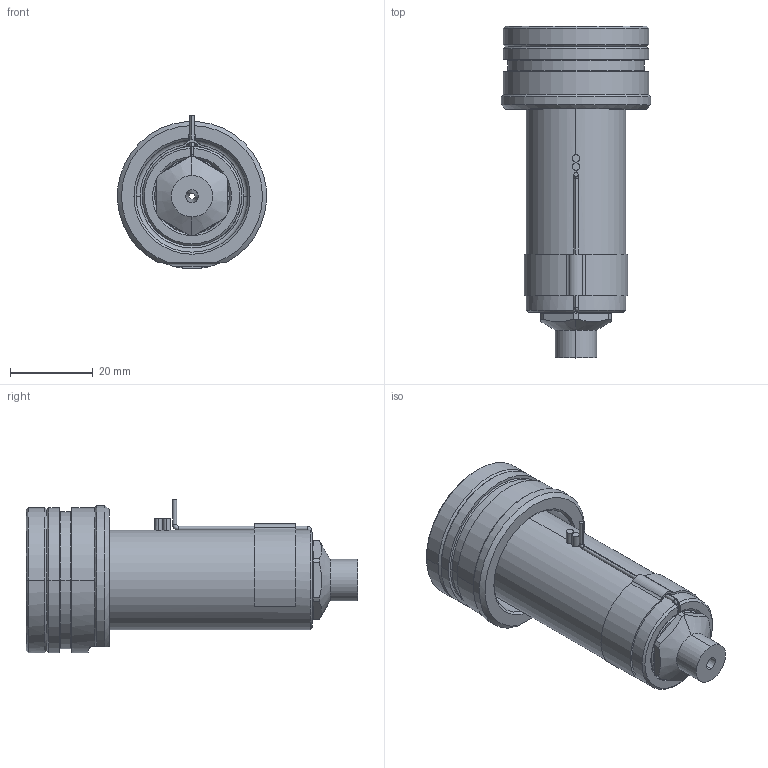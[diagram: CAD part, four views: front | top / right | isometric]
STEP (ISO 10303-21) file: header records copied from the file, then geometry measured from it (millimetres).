
FILE_DESCRIPTION((''),'2;1');
FILE_NAME('EO06_VG-ST_STD_060_SW','2024-02-19T12:37:01',('sundharh'),(''),'CREO PARAMETRIC BY PTC INC, 2023154','CREO PARAMETRIC BY PTC INC, 2023154','');
FILE_SCHEMA(('CONFIG_CONTROL_DESIGN'));
Length unit declared in the file: millimetre
Products named in the file (1): EO06_VG-ST_STD_060_SW
Bounding box: 35.93 x 80 x 37 mm (x, y, z)
Volume: 39032.8 mm3; surface area: 12467.8 mm2
Topology: 2 solids, 2 shells, 176 faces, 448 edges, 273 vertices
Faces by surface type: cylinder 68, plane 41, cone 34, torus 21, bspline 10, sphere 2
Entity records: 6050 total; most frequent: CARTESIAN_POINT 1732, DIRECTION 954, ORIENTED_EDGE 884, EDGE_CURVE 442, AXIS2_PLACEMENT_3D 399, VERTEX_POINT 273, CIRCLE 233, EDGE_LOOP 189
